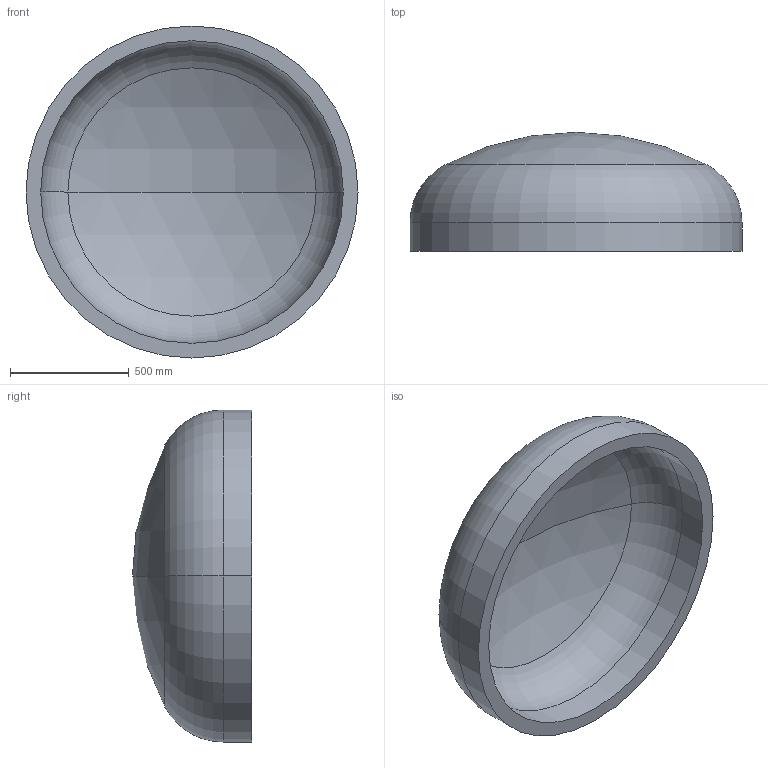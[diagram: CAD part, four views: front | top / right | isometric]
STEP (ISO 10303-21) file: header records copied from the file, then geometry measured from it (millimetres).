
FILE_DESCRIPTION (( 'STEP AP203' ), '1' );
FILE_NAME ('DIN 28013 Korbbogenform_-_Boden DIN 28013 - 1400 x 120 - I - s=62.step', '2016-07-01T10:22:51', ( '' ), ( '' ), 'SwSTEP 2.0', 'SolidWorks 2013', '' );
FILE_SCHEMA (( 'CONFIG_CONTROL_DESIGN' ));
Length unit declared in the file: millimetre
Products named in the file (1): DIN 28013 Korbbogenform_-_Boden DIN 28013 - 1400 x 120 - I - s=62
Bounding box: 1400 x 501.94 x 1400 mm (x, y, z)
Volume: 156042153.2 mm3; surface area: 5302281.4 mm2
Topology: 1 solids, 1 shells, 13 faces, 24 edges, 14 vertices
Faces by surface type: torus 4, cylinder 4, sphere 4, plane 1
Entity records: 407 total; most frequent: DIRECTION 72, CARTESIAN_POINT 52, ORIENTED_EDGE 48, AXIS2_PLACEMENT_3D 34, EDGE_CURVE 24, CIRCLE 20, VERTEX_POINT 14, EDGE_LOOP 14
